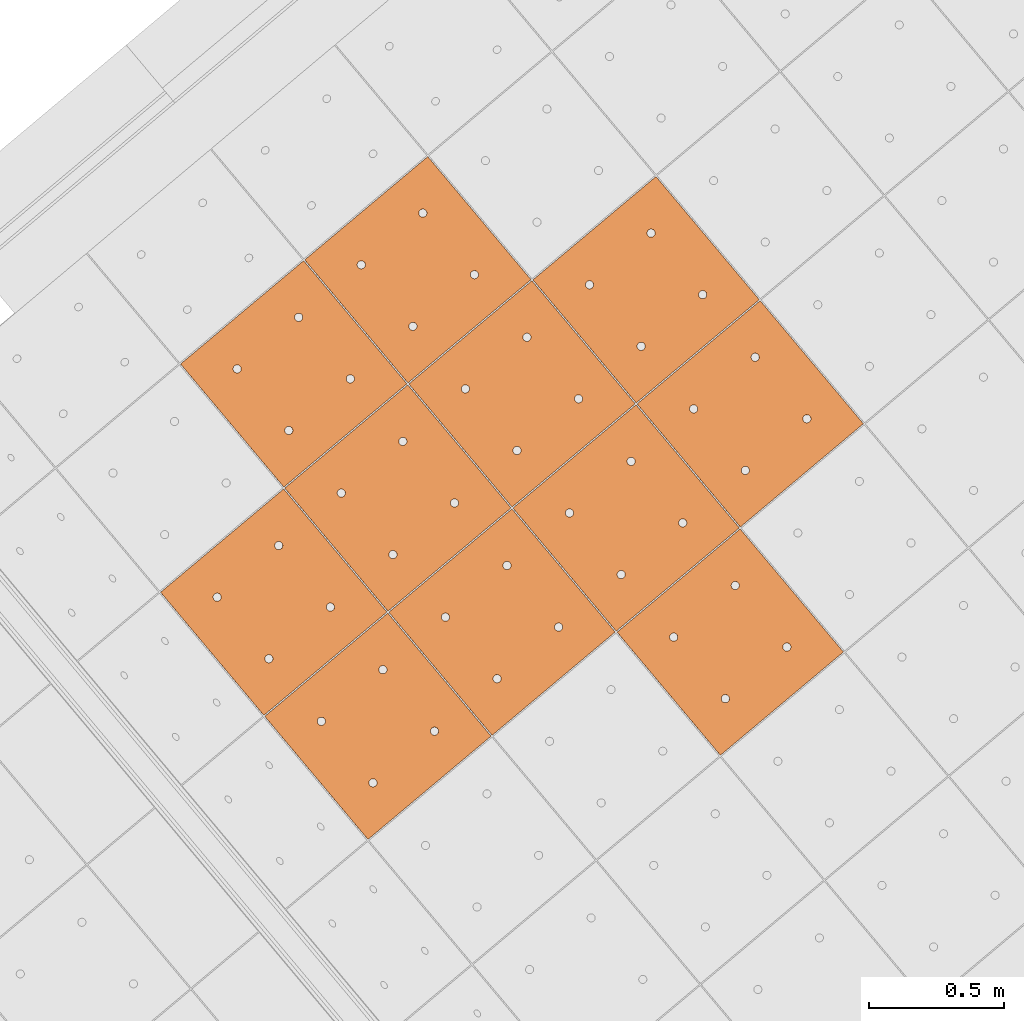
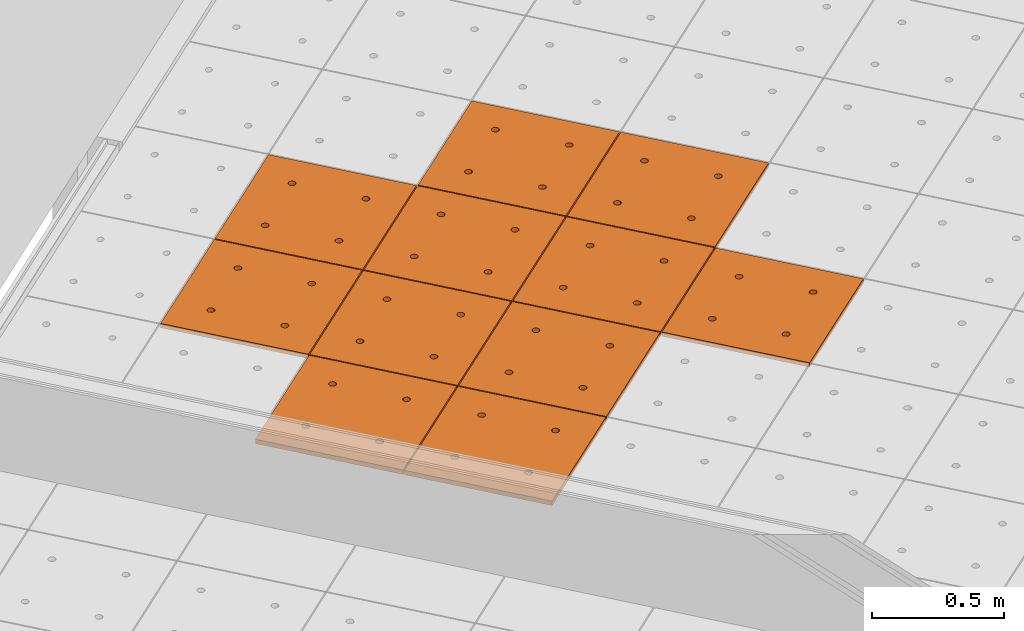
# One storey, part 162 of 338: 11 proxies, 1 element without a shape of its own.
"""IFC2X3 building model written with IfcOpenShell, lengths in millimetres."""

import ifcopenshell
import ifcopenshell.guid

model = None  # the IFC model being written
_history = None  # IfcOwnerHistory: only IFC2X3 demands one
_inside = {}  # id of a spatial element -> (the spatial element, [elements in it])
_under = {}  # id of a project, library or spatial element -> (it, [spatial elements below it])
_declared = {}  # id of a project -> (the project, [libraries it declares])
_typed = {}  # id of a type object -> (the type object, [elements of that type])
_made_of = {}  # id of a material, layer set ... -> (it, [elements and type objects made of it])


def new_model(schema):
    """Start an empty IFC model of exactly this schema.

    Asked for "IFC4X3", IfcOpenShell would pick the latest addendum, in which some entities
    have other attributes; the version numbers below select the first issue.
    IFC2X3 requires an IfcOwnerHistory on every rooted entity: one is made here for all.
    """
    global model, _history
    if schema == "IFC4X3":
        model = ifcopenshell.file(schema_version=(4, 3, 0, 0))
    else:
        model = ifcopenshell.file(schema=schema)
    _inside.clear()
    _under.clear()
    _declared.clear()
    _typed.clear()
    _made_of.clear()
    _history = None
    if model.schema == "IFC2X3":
        org = make("IfcOrganization", Name="unknown")
        user = make(
            "IfcPersonAndOrganization",
            ThePerson=make("IfcPerson", FamilyName="unknown"),
            TheOrganization=org,
        )
        app = make(
            "IfcApplication",
            ApplicationDeveloper=org,
            Version="unknown",
            ApplicationFullName="unknown",
            ApplicationIdentifier="unknown",
        )
        _history = make(
            "IfcOwnerHistory",
            OwningUser=user,
            OwningApplication=app,
            ChangeAction="ADDED",
            CreationDate=0,
        )
    return model


def make(cls, **values):
    """One entity of the class cls with the attributes given. An attribute that is None is left unset."""
    return model.create_entity(
        cls, **{name: value for name, value in values.items() if value is not None}
    )


def entity(cls, *values):
    """Any entity or typed value of the class cls, its attributes in the order of the schema. None: left unset."""
    e = model.create_entity(cls)
    for i, value in enumerate(values):
        if value is not None:
            e[i] = value
    return e


def rooted(cls, **values):
    """An entity with a GlobalId (a new one), such as an element, a storey or a relation."""
    return make(cls, GlobalId=ifcopenshell.guid.new(), OwnerHistory=_history, **values)


def si_unit(unit_type, name, prefix=None):
    """IfcSIUnit, for example si_unit("LENGTHUNIT", "METRE", prefix="MILLI")."""
    return make("IfcSIUnit", UnitType=unit_type, Prefix=prefix, Name=name)


def converted_unit(unit_type, name, factor, base, dimensions=None, offset=None):
    """IfcConversionBasedUnit, such as the inch: factor (a typed value) times the base unit."""
    return make(
        "IfcConversionBasedUnit"
        if offset is None
        else "IfcConversionBasedUnitWithOffset",
        ConversionOffset=offset,
        Dimensions=None
        if dimensions is None
        else entity("IfcDimensionalExponents", *dimensions),
        UnitType=unit_type,
        Name=name,
        ConversionFactor=make(
            "IfcMeasureWithUnit", ValueComponent=factor, UnitComponent=base
        ),
    )


def derived_unit(unit_type, elements):
    """IfcDerivedUnit: a product of units, each with its exponent."""
    return make(
        "IfcDerivedUnit",
        Elements=[
            make("IfcDerivedUnitElement", Unit=unit, Exponent=power)
            for unit, power in elements
        ],
        UnitType=unit_type,
    )


def money_unit(currency):
    """IfcMonetaryUnit."""
    return make("IfcMonetaryUnit", Currency=currency)


def assignment(units):
    """IfcUnitAssignment: the units of a project."""
    return None if units is None else make("IfcUnitAssignment", Units=units)


def point(xyz):
    """IfcCartesianPoint."""
    return None if xyz is None else make("IfcCartesianPoint", Coordinates=xyz)


def direction(xyz):
    """IfcDirection."""
    return None if xyz is None else make("IfcDirection", DirectionRatios=xyz)


def frame(location, z_axis=None, x_axis=None):
    """IfcAxis2Placement3D, a coordinate frame: its origin and axes. An axis left out is left unset."""
    return make(
        "IfcAxis2Placement3D",
        Location=point(location),
        Axis=direction(z_axis),
        RefDirection=direction(x_axis),
    )


def origin_with_axes():
    """The frame at (0, 0, 0) with the z axis (0, 0, 1) and the x axis (1, 0, 0) written out."""
    return frame((0.0, 0.0, 0.0), z_axis=(0.0, 0.0, 1.0), x_axis=(1.0, 0.0, 0.0))


def place(relative_to, where):
    """IfcLocalPlacement: puts the frame where relative to a parent placement (None: the world)."""
    return make(
        "IfcLocalPlacement", PlacementRelTo=relative_to, RelativePlacement=where
    )


def context(
    kind, dimensions, precision=None, world=None, true_north=None, identifier=None
):
    """IfcGeometricRepresentationContext, for example the 3D "Model" context."""
    return make(
        "IfcGeometricRepresentationContext",
        ContextIdentifier=identifier,
        ContextType=kind,
        CoordinateSpaceDimension=dimensions,
        Precision=precision,
        WorldCoordinateSystem=world,
        TrueNorth=true_north,
    )


def subcontext(parent, identifier, kind, view, scale=None):
    """IfcGeometricRepresentationSubContext, for example "Body" below "Model"."""
    return make(
        "IfcGeometricRepresentationSubContext",
        ContextIdentifier=identifier,
        ContextType=kind,
        ParentContext=parent,
        TargetScale=scale,
        TargetView=view,
    )


def project(units=None, contexts=None):
    """IfcProject with its units and contexts."""
    return rooted(
        "IfcProject",
        Name="project",
        RepresentationContexts=contexts,
        UnitsInContext=assignment(units),
    )


def spatial(cls, under=None, at=None, **own):
    """A site, building, storey or space (cls), placed at a placement, below another one or the project."""
    s = rooted(cls, ObjectPlacement=at, **own)
    if under is not None:
        _under.setdefault(under.id(), (under, []))[1].append(s)
    return s


def faces_of(points, faces, orient=None, outer=None):
    """IfcFace entities. A face is a list of loops; a loop is a list of indices into points, from 0.

    orient and outer hold one flag for each loop. By default every Orientation is true, the
    first loop of a face is its IfcFaceOuterBound and the others are IfcFaceBound.
    """
    made = []
    for i, loops in enumerate(faces):
        bounds = []
        for j, loop in enumerate(loops):
            is_outer = j == 0 if outer is None else outer[i][j]
            bounds.append(
                make(
                    "IfcFaceOuterBound" if is_outer else "IfcFaceBound",
                    Bound=make("IfcPolyLoop", Polygon=[points[k] for k in loop]),
                    Orientation=True if orient is None else orient[i][j],
                )
            )
        made.append(make("IfcFace", Bounds=bounds))
    return made


def faceted_brep(points, faces, orient=None, outer=None, voids=None):
    """IfcFacetedBrep: a solid bounded by flat faces; with voids (closed shells), ...WithVoids."""
    shared = [point(p) for p in points]
    hull = make("IfcClosedShell", CfsFaces=faces_of(shared, faces, orient, outer))
    if voids is None:
        return make("IfcFacetedBrep", Outer=hull)
    return make(
        "IfcFacetedBrepWithVoids",
        Outer=hull,
        Voids=[
            make(cls, CfsFaces=faces_of(shared, fs, o, b)) for cls, fs, o, b in voids
        ],
    )


def shape(context_of_items, identifier, shape_type, items):
    """IfcShapeRepresentation: the items that make up one representation, for example the "Body"."""
    return make(
        "IfcShapeRepresentation",
        ContextOfItems=context_of_items,
        RepresentationIdentifier=identifier,
        RepresentationType=shape_type,
        Items=items,
    )


def source(mapping_origin, context_of_items, identifier, shape_type, items):
    """IfcRepresentationMap: a shape defined once, which mapped items show again and again."""
    return make(
        "IfcRepresentationMap",
        MappingOrigin=mapping_origin,
        MappedRepresentation=shape(context_of_items, identifier, shape_type, items),
    )


def transform(
    local_origin,
    x_axis=None,
    y_axis=None,
    z_axis=None,
    scale=None,
    scale2=None,
    scale3=None,
    uniform=True,
):
    """IfcCartesianTransformationOperator3D, or its non-uniform kind. x_axis, y_axis, z_axis: its Axis1, 2, 3."""
    if uniform:
        return make(
            "IfcCartesianTransformationOperator3D",
            Axis1=direction(x_axis),
            Axis2=direction(y_axis),
            LocalOrigin=point(local_origin),
            Scale=scale,
            Axis3=direction(z_axis),
        )
    return make(
        "IfcCartesianTransformationOperator3DnonUniform",
        Axis1=direction(x_axis),
        Axis2=direction(y_axis),
        LocalOrigin=point(local_origin),
        Scale=scale,
        Axis3=direction(z_axis),
        Scale2=scale2,
        Scale3=scale3,
    )


def mapped(mapping_source, mapping_target):
    """IfcMappedItem: shows the shape of a source again, moved by a transform."""
    return make(
        "IfcMappedItem", MappingSource=mapping_source, MappingTarget=mapping_target
    )


def material(Name=None, Category=None):
    """IfcMaterial."""
    return make("IfcMaterial", Name=Name, Category=Category)


def made_of(thing, what):
    """Note that an element or type object is made of a material, layer set ...; save() writes the relation."""
    if what is not None:
        _made_of.setdefault(what.id(), (what, []))[1].append(thing)
    return thing


def type_object(cls, material=None, **own):
    """A type object (cls), such as IfcWallType, which elements share."""
    return made_of(rooted(cls, **own), material)


def type_shapes(of_type, sources):
    """Give a type object the sources (RepresentationMaps) that its elements show as mapped items."""
    of_type.RepresentationMaps = sources


def element(
    cls,
    number,
    at=None,
    inside=None,
    cuts=None,
    type_object=None,
    material=None,
    context=None,
    identifier="Body",
    shape_type=None,
    held_by="IfcProductDefinitionShape",
    body=None,
    shapes=None,
    **own,
):
    """One element of the class cls, such as IfcWall. Its Tag is "e" and its number.

    at: its placement. inside: the storey or other place that contains it. cuts: it is an
    opening in that element (IfcRelVoidsElement). A single representation is given by context,
    identifier, shape_type and body (its items); several are given by shapes. held_by: the class
    of the entity that holds the representations. save() writes the other relations.
    """
    e = rooted(cls, Tag="e%d" % number, ObjectPlacement=at, **own)
    if body is not None:
        shapes = [shape(context, identifier, shape_type, body)]
    if shapes is not None:
        e.Representation = make(held_by, Representations=shapes)
    if inside is not None:
        _inside.setdefault(inside.id(), (inside, []))[1].append(e)
    if cuts is not None:
        rooted(
            "IfcRelVoidsElement", RelatingBuildingElement=cuts, RelatedOpeningElement=e
        )
    if type_object is not None:
        _typed.setdefault(type_object.id(), (type_object, []))[1].append(e)
    return made_of(e, material)


def aggregate(whole, parts):
    """IfcRelAggregates: a whole, such as a stair, and the parts it consists of."""
    return rooted("IfcRelAggregates", RelatingObject=whole, RelatedObjects=parts)


def save(model, path):
    """Write the relations noted so far, then the file.

    IfcRelAggregates (storeys below a building ...), IfcRelContainedInSpatialStructure (elements
    in a storey), IfcRelDefinesByType, IfcRelAssociatesMaterial and IfcRelDeclares: one each for
    every whole, place, type object, material and project.
    """
    for whole, parts in _under.values():
        aggregate(whole, parts)
    for where, things in _inside.values():
        rooted(
            "IfcRelContainedInSpatialStructure",
            RelatedElements=things,
            RelatingStructure=where,
        )
    for kind, things in _typed.values():
        rooted("IfcRelDefinesByType", RelatedObjects=things, RelatingType=kind)
    for what, things in _made_of.values():
        rooted("IfcRelAssociatesMaterial", RelatedObjects=things, RelatingMaterial=what)
    for by, libraries in _declared.values():
        rooted("IfcRelDeclares", RelatingContext=by, RelatedDefinitions=libraries)
    model.write(path)


model = new_model("IFC2X3")

# Units and contexts
model_context = context("Model", 3, precision=0.01, world=origin_with_axes(), true_north=direction((0.0, 1.0)))
plan_context = context("Plan", 3, precision=0.01, world=origin_with_axes(), true_north=direction((0.0, 1.0)))
body_context = subcontext(model_context, "Body", "Model", "MODEL_VIEW")
ifc_project = project(units=[si_unit("LENGTHUNIT", "METRE", prefix="MILLI"), si_unit("AREAUNIT", "SQUARE_METRE"), si_unit("VOLUMEUNIT", "CUBIC_METRE"), converted_unit("PLANEANGLEUNIT", "DEGREE", entity("IfcPlaneAngleMeasure", 0.0174532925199), si_unit("PLANEANGLEUNIT", "RADIAN"), dimensions=[0, 0, 0, 0, 0, 0, 0]), money_unit("EUR"), converted_unit("TIMEUNIT", "Year", entity("IfcTimeMeasure", 31556926.0), si_unit("TIMEUNIT", "SECOND"), dimensions=[0, 0, 1, 0, 0, 0, 0]), si_unit("MASSUNIT", "GRAM", prefix="KILO"), si_unit("THERMODYNAMICTEMPERATUREUNIT", "DEGREE_CELSIUS"), si_unit("LUMINOUSINTENSITYUNIT", "LUMEN"), si_unit("ENERGYUNIT", "JOULE", prefix="MEGA"), derived_unit("THERMALCONDUCTANCEUNIT", [(si_unit("POWERUNIT", "WATT"), 1), (si_unit("LENGTHUNIT", "METRE"), -1), (si_unit("THERMODYNAMICTEMPERATUREUNIT", "KELVIN"), -1)]), derived_unit("SPECIFICHEATCAPACITYUNIT", [(si_unit("ENERGYUNIT", "JOULE"), 1), (si_unit("MASSUNIT", "GRAM", prefix="KILO"), -1), (si_unit("THERMODYNAMICTEMPERATUREUNIT", "KELVIN"), -1)]), derived_unit("MASSDENSITYUNIT", [(si_unit("MASSUNIT", "GRAM", prefix="KILO"), 1), (si_unit("VOLUMEUNIT", "CUBIC_METRE"), -1)])], contexts=[model_context, plan_context])

# Site, building, storey
site_placement = place(None, origin_with_axes())
site = spatial("IfcSite", under=ifc_project, at=site_placement, Name="Fortuinstraat Woensdrecht", CompositionType="ELEMENT")
building_placement = place(site_placement, origin_with_axes())
building = spatial("IfcBuilding", under=site, at=building_placement, Name="IKC Fortuna", CompositionType="ELEMENT")
storey_placement = place(building_placement, origin_with_axes())
storey = spatial("IfcBuildingStorey", under=building, at=storey_placement, Name="00 begane grond", CompositionType="ELEMENT", Elevation=0.0)

# Covering, proxies
covering_type = type_object("IfcCoveringType", Name="Curtain Wall Type", PredefinedType="CEILING")
covering_placement = place(storey_placement, frame((15863.124366, 4456.31398675, 4619.99995334), z_axis=(0.0, 0.0, 1.0), x_axis=(1.0, 0.0, 0.0)))
covering = element("IfcCovering", 1, at=covering_placement, inside=storey, type_object=covering_type, Name="45_Plafondafwerking_P01", PredefinedType="CEILING")
ifc_material = material(Name="Gipsplaat")
building_element_proxy_type = type_object("IfcBuildingElementProxyType", Name="Main Panel 600 x 600 x 20", PredefinedType="NOTDEFINED")
shared_shape = source(origin_with_axes(), body_context, "Body", "Brep", [
    faceted_brep([(2.50000262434, 2.50000269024, -10.0), (299.999999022, 2.50000269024, -10.0), (299.999999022, 2.50000269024, 10.0), (2.50000262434, 2.50000269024, 10.0), (2.50000262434, 300.000003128, -10.0), (2.50000262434, 597.500003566, -10.0), (299.999999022, 597.500003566, -10.0), (597.499995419, 597.500003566, -10.0), (597.499995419, 300.000003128, -10.0), (597.499995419, 2.50000269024, -10.0), (166.250000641, 450.062333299, -10.0), (165.794233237, 452.647118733, -10.0), (164.896546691, 455.113492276, -10.0), (163.584216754, 457.386514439, -10.0), (161.897117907, 459.397120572, -10.0), (159.886511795, 461.084219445, -10.0), (157.613489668, 462.396549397, -10.0), (155.147116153, 463.294235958, -10.0), (152.56233076, 463.750003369, -10.0), (149.937670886, 463.750003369, -10.0), (147.352885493, 463.294235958, -10.0), (144.886511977, 462.396549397, -10.0), (142.61348985, 461.084219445, -10.0), (140.602883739, 459.397120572, -10.0), (138.915784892, 457.386514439, -10.0), (137.603454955, 455.113492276, -10.0), (136.705768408, 452.647118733, -10.0), (136.250001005, 450.062333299, -10.0), (136.250001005, 448.750003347, -10.0), (136.250001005, 447.437673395, -10.0), (136.705768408, 444.852887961, -10.0), (137.603454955, 442.386514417, -10.0), (138.915784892, 440.113492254, -10.0), (140.602883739, 438.102886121, -10.0), (142.61348985, 436.415787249, -10.0), (144.886511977, 435.103457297, -10.0), (147.352885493, 434.205770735, -10.0), (149.937670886, 433.750003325, -10.0), (152.56233076, 433.750003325, -10.0), (155.147116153, 434.205770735, -10.0), (157.613489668, 435.103457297, -10.0), (159.886511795, 436.415787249, -10.0), (161.897117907, 438.102886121, -10.0), (163.584216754, 440.113492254, -10.0), (164.896546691, 442.386514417, -10.0), (165.794233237, 444.852887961, -10.0), (166.250000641, 447.437673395, -10.0), (463.749997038, 450.062333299, -10.0), (463.294229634, 452.647118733, -10.0), (462.396543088, 455.113492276, -10.0), (461.084213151, 457.386514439, -10.0), (459.397114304, 459.397120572, -10.0), (457.386508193, 461.084219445, -10.0), (455.113486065, 462.396549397, -10.0), (452.64711255, 463.294235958, -10.0), (450.062327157, 463.750003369, -10.0), (447.437667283, 463.750003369, -10.0), (444.85288189, 463.294235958, -10.0), (442.386508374, 462.396549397, -10.0), (440.113486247, 461.084219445, -10.0), (438.102880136, 459.397120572, -10.0), (436.415781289, 457.386514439, -10.0), (435.103451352, 455.113492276, -10.0), (434.205764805, 452.647118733, -10.0), (433.749997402, 450.062333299, -10.0), (433.749997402, 448.750003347, -10.0), (433.749997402, 447.437673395, -10.0), (434.205764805, 444.852887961, -10.0), (435.103451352, 442.386514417, -10.0), (436.415781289, 440.113492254, -10.0), (438.102880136, 438.102886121, -10.0), (440.113486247, 436.415787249, -10.0), (442.386508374, 435.103457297, -10.0), (444.85288189, 434.205770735, -10.0), (447.437667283, 433.750003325, -10.0), (450.062327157, 433.750003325, -10.0), (452.64711255, 434.205770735, -10.0), (455.113486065, 435.103457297, -10.0), (457.386508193, 436.415787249, -10.0), (459.397114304, 438.102886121, -10.0), (461.084213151, 440.113492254, -10.0), (462.396543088, 442.386514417, -10.0), (463.294229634, 444.852887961, -10.0), (463.749997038, 447.437673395, -10.0), (463.749997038, 152.562332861, -10.0), (463.294229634, 155.147118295, -10.0), (462.396543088, 157.613491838, -10.0), (461.084213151, 159.886514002, -10.0), (459.397114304, 161.897120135, -10.0), (457.386508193, 163.584219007, -10.0), (455.113486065, 164.896548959, -10.0), (452.64711255, 165.79423552, -10.0), (450.062327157, 166.250002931, -10.0), (447.437667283, 166.250002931, -10.0), (444.85288189, 165.79423552, -10.0), (442.386508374, 164.896548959, -10.0), (440.113486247, 163.584219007, -10.0), (438.102880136, 161.897120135, -10.0), (436.415781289, 159.886514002, -10.0), (435.103451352, 157.613491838, -10.0), (434.205764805, 155.147118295, -10.0), (433.749997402, 152.562332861, -10.0), (433.749997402, 151.250002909, -10.0), (433.749997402, 149.937672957, -10.0), (434.205764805, 147.352887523, -10.0), (435.103451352, 144.88651398, -10.0), (436.415781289, 142.613491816, -10.0), (438.102880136, 140.602885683, -10.0), (440.113486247, 138.915786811, -10.0), (442.386508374, 137.603456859, -10.0), (444.85288189, 136.705770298, -10.0), (447.437667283, 136.250002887, -10.0), (450.062327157, 136.250002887, -10.0), (452.64711255, 136.705770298, -10.0), (455.113486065, 137.603456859, -10.0), (457.386508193, 138.915786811, -10.0), (459.397114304, 140.602885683, -10.0), (461.084213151, 142.613491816, -10.0), (462.396543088, 144.88651398, -10.0), (463.294229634, 147.352887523, -10.0), (463.749997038, 149.937672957, -10.0), (166.250000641, 152.562332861, -10.0), (165.794233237, 155.147118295, -10.0), (164.896546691, 157.613491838, -10.0), (163.584216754, 159.886514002, -10.0), (161.897117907, 161.897120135, -10.0), (159.886511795, 163.584219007, -10.0), (157.613489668, 164.896548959, -10.0), (155.147116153, 165.79423552, -10.0), (152.56233076, 166.250002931, -10.0), (149.937670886, 166.250002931, -10.0), (147.352885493, 165.79423552, -10.0), (144.886511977, 164.896548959, -10.0), (142.61348985, 163.584219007, -10.0), (140.602883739, 161.897120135, -10.0), (138.915784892, 159.886514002, -10.0), (137.603454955, 157.613491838, -10.0), (136.705768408, 155.147118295, -10.0), (136.250001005, 152.562332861, -10.0), (136.250001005, 151.250002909, -10.0), (136.250001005, 149.937672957, -10.0), (136.705768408, 147.352887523, -10.0), (137.603454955, 144.88651398, -10.0), (138.915784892, 142.613491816, -10.0), (140.602883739, 140.602885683, -10.0), (142.61348985, 138.915786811, -10.0), (144.886511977, 137.603456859, -10.0), (147.352885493, 136.705770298, -10.0), (149.937670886, 136.250002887, -10.0), (152.56233076, 136.250002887, -10.0), (155.147116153, 136.705770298, -10.0), (157.613489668, 137.603456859, -10.0), (159.886511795, 138.915786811, -10.0), (161.897117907, 140.602885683, -10.0), (163.584216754, 142.613491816, -10.0), (164.896546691, 144.88651398, -10.0), (165.794233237, 147.352887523, -10.0), (166.250000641, 149.937672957, -10.0), (597.499995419, 2.50000269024, 10.0), (597.499995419, 300.000003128, 10.0), (597.499995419, 597.500003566, 10.0), (299.999999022, 597.500003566, 10.0), (2.50000262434, 597.500003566, 10.0), (2.50000262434, 300.000003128, 10.0), (166.250000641, 450.062333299, 10.0), (166.250000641, 447.437673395, 10.0), (165.794233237, 444.852887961, 10.0), (164.896546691, 442.386514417, 10.0), (163.584216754, 440.113492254, 10.0), (161.897117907, 438.102886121, 10.0), (159.886511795, 436.415787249, 10.0), (157.613489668, 435.103457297, 10.0), (155.147116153, 434.205770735, 10.0), (152.56233076, 433.750003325, 10.0), (149.937670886, 433.750003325, 10.0), (147.352885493, 434.205770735, 10.0), (144.886511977, 435.103457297, 10.0), (142.61348985, 436.415787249, 10.0), (140.602883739, 438.102886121, 10.0), (138.915784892, 440.113492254, 10.0), (137.603454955, 442.386514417, 10.0), (136.705768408, 444.852887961, 10.0), (136.250001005, 447.437673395, 10.0), (136.250001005, 448.750003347, 10.0), (136.250001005, 450.062333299, 10.0), (136.705768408, 452.647118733, 10.0), (137.603454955, 455.113492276, 10.0), (138.915784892, 457.386514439, 10.0), (140.602883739, 459.397120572, 10.0), (142.61348985, 461.084219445, 10.0), (144.886511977, 462.396549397, 10.0), (147.352885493, 463.294235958, 10.0), (149.937670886, 463.750003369, 10.0), (152.56233076, 463.750003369, 10.0), (155.147116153, 463.294235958, 10.0), (157.613489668, 462.396549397, 10.0), (159.886511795, 461.084219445, 10.0), (161.897117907, 459.397120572, 10.0), (163.584216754, 457.386514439, 10.0), (164.896546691, 455.113492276, 10.0), (165.794233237, 452.647118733, 10.0), (463.749997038, 450.062333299, 10.0), (463.749997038, 447.437673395, 10.0), (463.294229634, 444.852887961, 10.0), (462.396543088, 442.386514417, 10.0), (461.084213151, 440.113492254, 10.0), (459.397114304, 438.102886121, 10.0), (457.386508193, 436.415787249, 10.0), (455.113486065, 435.103457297, 10.0), (452.64711255, 434.205770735, 10.0), (450.062327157, 433.750003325, 10.0), (447.437667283, 433.750003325, 10.0), (444.85288189, 434.205770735, 10.0), (442.386508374, 435.103457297, 10.0), (440.113486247, 436.415787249, 10.0), (438.102880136, 438.102886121, 10.0), (436.415781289, 440.113492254, 10.0), (435.103451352, 442.386514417, 10.0), (434.205764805, 444.852887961, 10.0), (433.749997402, 447.437673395, 10.0), (433.749997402, 448.750003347, 10.0), (433.749997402, 450.062333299, 10.0), (434.205764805, 452.647118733, 10.0), (435.103451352, 455.113492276, 10.0), (436.415781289, 457.386514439, 10.0), (438.102880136, 459.397120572, 10.0), (440.113486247, 461.084219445, 10.0), (442.386508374, 462.396549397, 10.0), (444.85288189, 463.294235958, 10.0), (447.437667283, 463.750003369, 10.0), (450.062327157, 463.750003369, 10.0), (452.64711255, 463.294235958, 10.0), (455.113486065, 462.396549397, 10.0), (457.386508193, 461.084219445, 10.0), (459.397114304, 459.397120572, 10.0), (461.084213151, 457.386514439, 10.0), (462.396543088, 455.113492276, 10.0), (463.294229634, 452.647118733, 10.0), (463.749997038, 152.562332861, 10.0), (463.749997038, 149.937672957, 10.0), (463.294229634, 147.352887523, 10.0), (462.396543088, 144.88651398, 10.0), (461.084213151, 142.613491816, 10.0), (459.397114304, 140.602885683, 10.0), (457.386508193, 138.915786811, 10.0), (455.113486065, 137.603456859, 10.0), (452.64711255, 136.705770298, 10.0), (450.062327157, 136.250002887, 10.0), (447.437667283, 136.250002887, 10.0), (444.85288189, 136.705770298, 10.0), (442.386508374, 137.603456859, 10.0), (440.113486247, 138.915786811, 10.0), (438.102880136, 140.602885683, 10.0), (436.415781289, 142.613491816, 10.0), (435.103451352, 144.88651398, 10.0), (434.205764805, 147.352887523, 10.0), (433.749997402, 149.937672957, 10.0), (433.749997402, 151.250002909, 10.0), (433.749997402, 152.562332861, 10.0), (434.205764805, 155.147118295, 10.0), (435.103451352, 157.613491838, 10.0), (436.415781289, 159.886514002, 10.0), (438.102880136, 161.897120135, 10.0), (440.113486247, 163.584219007, 10.0), (442.386508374, 164.896548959, 10.0), (444.85288189, 165.79423552, 10.0), (447.437667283, 166.250002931, 10.0), (450.062327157, 166.250002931, 10.0), (452.64711255, 165.79423552, 10.0), (455.113486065, 164.896548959, 10.0), (457.386508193, 163.584219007, 10.0), (459.397114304, 161.897120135, 10.0), (461.084213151, 159.886514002, 10.0), (462.396543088, 157.613491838, 10.0), (463.294229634, 155.147118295, 10.0), (166.250000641, 152.562332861, 10.0), (166.250000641, 149.937672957, 10.0), (165.794233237, 147.352887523, 10.0), (164.896546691, 144.88651398, 10.0), (163.584216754, 142.613491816, 10.0), (161.897117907, 140.602885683, 10.0), (159.886511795, 138.915786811, 10.0), (157.613489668, 137.603456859, 10.0), (155.147116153, 136.705770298, 10.0), (152.56233076, 136.250002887, 10.0), (149.937670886, 136.250002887, 10.0), (147.352885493, 136.705770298, 10.0), (144.886511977, 137.603456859, 10.0), (142.61348985, 138.915786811, 10.0), (140.602883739, 140.602885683, 10.0), (138.915784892, 142.613491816, 10.0), (137.603454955, 144.88651398, 10.0), (136.705768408, 147.352887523, 10.0), (136.250001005, 149.937672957, 10.0), (136.250001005, 151.250002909, 10.0), (136.250001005, 152.562332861, 10.0), (136.705768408, 155.147118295, 10.0), (137.603454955, 157.613491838, 10.0), (138.915784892, 159.886514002, 10.0), (140.602883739, 161.897120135, 10.0), (142.61348985, 163.584219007, 10.0), (144.886511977, 164.896548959, 10.0), (147.352885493, 165.79423552, 10.0), (149.937670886, 166.250002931, 10.0), (152.56233076, 166.250002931, 10.0), (155.147116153, 165.79423552, 10.0), (157.613489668, 164.896548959, 10.0), (159.886511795, 163.584219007, 10.0), (161.897117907, 161.897120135, 10.0), (163.584216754, 159.886514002, 10.0), (164.896546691, 157.613491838, 10.0), (165.794233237, 155.147118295, 10.0)], [[[0, 1, 2, 3]], [[0, 4, 5, 6, 7, 8, 9, 1], [10, 11, 12, 13, 14, 15, 16, 17, 18, 19, 20, 21, 22, 23, 24, 25, 26, 27, 28, 29, 30, 31, 32, 33, 34, 35, 36, 37, 38, 39, 40, 41, 42, 43, 44, 45, 46], [47, 48, 49, 50, 51, 52, 53, 54, 55, 56, 57, 58, 59, 60, 61, 62, 63, 64, 65, 66, 67, 68, 69, 70, 71, 72, 73, 74, 75, 76, 77, 78, 79, 80, 81, 82, 83], [84, 85, 86, 87, 88, 89, 90, 91, 92, 93, 94, 95, 96, 97, 98, 99, 100, 101, 102, 103, 104, 105, 106, 107, 108, 109, 110, 111, 112, 113, 114, 115, 116, 117, 118, 119, 120], [121, 122, 123, 124, 125, 126, 127, 128, 129, 130, 131, 132, 133, 134, 135, 136, 137, 138, 139, 140, 141, 142, 143, 144, 145, 146, 147, 148, 149, 150, 151, 152, 153, 154, 155, 156, 157]], [[1, 9, 158, 2]], [[3, 2, 158, 159, 160, 161, 162, 163], [164, 165, 166, 167, 168, 169, 170, 171, 172, 173, 174, 175, 176, 177, 178, 179, 180, 181, 182, 183, 184, 185, 186, 187, 188, 189, 190, 191, 192, 193, 194, 195, 196, 197, 198, 199, 200], [201, 202, 203, 204, 205, 206, 207, 208, 209, 210, 211, 212, 213, 214, 215, 216, 217, 218, 219, 220, 221, 222, 223, 224, 225, 226, 227, 228, 229, 230, 231, 232, 233, 234, 235, 236, 237], [238, 239, 240, 241, 242, 243, 244, 245, 246, 247, 248, 249, 250, 251, 252, 253, 254, 255, 256, 257, 258, 259, 260, 261, 262, 263, 264, 265, 266, 267, 268, 269, 270, 271, 272, 273, 274], [275, 276, 277, 278, 279, 280, 281, 282, 283, 284, 285, 286, 287, 288, 289, 290, 291, 292, 293, 294, 295, 296, 297, 298, 299, 300, 301, 302, 303, 304, 305, 306, 307, 308, 309, 310, 311]], [[4, 0, 3, 163]], [[5, 4, 163, 162]], [[6, 5, 162, 161]], [[7, 6, 161, 160]], [[8, 7, 160, 159]], [[9, 8, 159, 158]], [[11, 10, 164, 200]], [[12, 11, 200, 199]], [[13, 12, 199, 198]], [[14, 13, 198, 197]], [[15, 14, 197, 196]], [[16, 15, 196, 195]], [[17, 16, 195, 194]], [[18, 17, 194, 193]], [[19, 18, 193, 192]], [[20, 19, 192, 191]], [[21, 20, 191, 190]], [[22, 21, 190, 189]], [[23, 22, 189, 188]], [[24, 23, 188, 187]], [[25, 24, 187, 186]], [[26, 25, 186, 185]], [[27, 26, 185, 184]], [[28, 27, 184, 183]], [[29, 28, 183, 182]], [[30, 29, 182, 181]], [[31, 30, 181, 180]], [[32, 31, 180, 179]], [[33, 32, 179, 178]], [[34, 33, 178, 177]], [[35, 34, 177, 176]], [[36, 35, 176, 175]], [[37, 36, 175, 174]], [[38, 37, 174, 173]], [[39, 38, 173, 172]], [[40, 39, 172, 171]], [[41, 40, 171, 170]], [[42, 41, 170, 169]], [[43, 42, 169, 168]], [[44, 43, 168, 167]], [[45, 44, 167, 166]], [[46, 45, 166, 165]], [[10, 46, 165, 164]], [[48, 47, 201, 237]], [[49, 48, 237, 236]], [[50, 49, 236, 235]], [[51, 50, 235, 234]], [[52, 51, 234, 233]], [[53, 52, 233, 232]], [[54, 53, 232, 231]], [[55, 54, 231, 230]], [[56, 55, 230, 229]], [[57, 56, 229, 228]], [[58, 57, 228, 227]], [[59, 58, 227, 226]], [[60, 59, 226, 225]], [[61, 60, 225, 224]], [[62, 61, 224, 223]], [[63, 62, 223, 222]], [[64, 63, 222, 221]], [[65, 64, 221, 220]], [[66, 65, 220, 219]], [[67, 66, 219, 218]], [[68, 67, 218, 217]], [[69, 68, 217, 216]], [[70, 69, 216, 215]], [[71, 70, 215, 214]], [[72, 71, 214, 213]], [[73, 72, 213, 212]], [[74, 73, 212, 211]], [[75, 74, 211, 210]], [[76, 75, 210, 209]], [[77, 76, 209, 208]], [[78, 77, 208, 207]], [[79, 78, 207, 206]], [[80, 79, 206, 205]], [[81, 80, 205, 204]], [[82, 81, 204, 203]], [[83, 82, 203, 202]], [[47, 83, 202, 201]], [[85, 84, 238, 274]], [[86, 85, 274, 273]], [[87, 86, 273, 272]], [[88, 87, 272, 271]], [[89, 88, 271, 270]], [[90, 89, 270, 269]], [[91, 90, 269, 268]], [[92, 91, 268, 267]], [[93, 92, 267, 266]], [[94, 93, 266, 265]], [[95, 94, 265, 264]], [[96, 95, 264, 263]], [[97, 96, 263, 262]], [[98, 97, 262, 261]], [[99, 98, 261, 260]], [[100, 99, 260, 259]], [[101, 100, 259, 258]], [[102, 101, 258, 257]], [[103, 102, 257, 256]], [[104, 103, 256, 255]], [[105, 104, 255, 254]], [[106, 105, 254, 253]], [[107, 106, 253, 252]], [[108, 107, 252, 251]], [[109, 108, 251, 250]], [[110, 109, 250, 249]], [[111, 110, 249, 248]], [[112, 111, 248, 247]], [[113, 112, 247, 246]], [[114, 113, 246, 245]], [[115, 114, 245, 244]], [[116, 115, 244, 243]], [[117, 116, 243, 242]], [[118, 117, 242, 241]], [[119, 118, 241, 240]], [[120, 119, 240, 239]], [[84, 120, 239, 238]], [[122, 121, 275, 311]], [[123, 122, 311, 310]], [[124, 123, 310, 309]], [[125, 124, 309, 308]], [[126, 125, 308, 307]], [[127, 126, 307, 306]], [[128, 127, 306, 305]], [[129, 128, 305, 304]], [[130, 129, 304, 303]], [[131, 130, 303, 302]], [[132, 131, 302, 301]], [[133, 132, 301, 300]], [[134, 133, 300, 299]], [[135, 134, 299, 298]], [[136, 135, 298, 297]], [[137, 136, 297, 296]], [[138, 137, 296, 295]], [[139, 138, 295, 294]], [[140, 139, 294, 293]], [[141, 140, 293, 292]], [[142, 141, 292, 291]], [[143, 142, 291, 290]], [[144, 143, 290, 289]], [[145, 144, 289, 288]], [[146, 145, 288, 287]], [[147, 146, 287, 286]], [[148, 147, 286, 285]], [[149, 148, 285, 284]], [[150, 149, 284, 283]], [[151, 150, 283, 282]], [[152, 151, 282, 281]], [[153, 152, 281, 280]], [[154, 153, 280, 279]], [[155, 154, 279, 278]], [[156, 155, 278, 277]], [[157, 156, 277, 276]], [[121, 157, 276, 275]]]),
])
type_shapes(building_element_proxy_type, [shared_shape])
proxy_1_placement = place(covering_placement, frame((-7909.9798481, 844.411654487, 29.7317792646), z_axis=(0.0, 0.0, 1.0), x_axis=(0.642787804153, -0.766044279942, 0.0)))
proxy_1 = element("IfcBuildingElementProxy", 2, at=proxy_1_placement, type_object=building_element_proxy_type, material=ifc_material, Name="__600x953 Rockfon Krios", context=body_context, shape_type="MappedRepresentation", body=[
    mapped(shared_shape, transform((-300.0, 299.995617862, -1.62150043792), x_axis=(0.0, -0.999985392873, 0.00540500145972), y_axis=(1.0, 0.0, 0.0), z_axis=(0.0, 0.00540500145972, 0.999985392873))),
])
proxy_2_placement = place(covering_placement, frame((-8369.59970224, 458.744605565, 32.9747801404), z_axis=(0.0, 0.0, 1.0), x_axis=(0.642787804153, -0.766044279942, 0.0)))
proxy_2 = element("IfcBuildingElementProxy", 3, at=proxy_2_placement, type_object=building_element_proxy_type, material=ifc_material, Name="__600x954 Rockfon Krios", context=body_context, shape_type="MappedRepresentation", body=[
    mapped(shared_shape, transform((-300.0, 299.995617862, -1.62150043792), x_axis=(0.0, -0.999985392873, 0.00540500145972), y_axis=(1.0, 0.0, 0.0), z_axis=(0.0, 0.00540500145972, 0.999985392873))),
])
proxy_3_placement = place(covering_placement, frame((-7064.68731147, 770.452135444, 26.4887783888), z_axis=(0.0, 0.0, 1.0), x_axis=(0.642787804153, -0.766044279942, 0.0)))
proxy_3 = element("IfcBuildingElementProxy", 4, at=proxy_3_placement, type_object=building_element_proxy_type, material=ifc_material, Name="__600x965 Rockfon Krios", context=body_context, shape_type="MappedRepresentation", body=[
    mapped(shared_shape, transform((-300.0, 299.995617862, -1.62150043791), x_axis=(0.0, -0.999985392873, 0.00540500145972), y_axis=(1.0, 0.0, 0.0), z_axis=(0.0, 0.00540500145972, 0.999985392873))),
])
proxy_4_placement = place(covering_placement, frame((-7524.30716561, 384.785086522, 29.7317792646), z_axis=(0.0, 0.0, 1.0), x_axis=(0.642787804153, -0.766044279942, 0.0)))
proxy_4 = element("IfcBuildingElementProxy", 5, at=proxy_4_placement, type_object=building_element_proxy_type, material=ifc_material, Name="__600x966 Rockfon Krios", context=body_context, shape_type="MappedRepresentation", body=[
    mapped(shared_shape, transform((-300.0, 299.995617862, -1.62150043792), x_axis=(0.0, -0.999985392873, 0.00540500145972), y_axis=(1.0, 0.0, 0.0), z_axis=(0.0, 0.00540500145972, 0.999985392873))),
])
proxy_5_placement = place(covering_placement, frame((-7983.92701975, -0.88196239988, 32.9747801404), z_axis=(0.0, 0.0, 1.0), x_axis=(0.642787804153, -0.766044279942, 0.0)))
proxy_5 = element("IfcBuildingElementProxy", 6, at=proxy_5_placement, type_object=building_element_proxy_type, material=ifc_material, Name="__600x967 Rockfon Krios", context=body_context, shape_type="MappedRepresentation", body=[
    mapped(shared_shape, transform((-300.0, 299.995617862, -1.62150043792), x_axis=(0.0, -0.999985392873, 0.00540500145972), y_axis=(1.0, 0.0, 0.0), z_axis=(0.0, 0.00540500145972, 0.999985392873))),
])
proxy_6_placement = place(covering_placement, frame((-8443.54687389, -386.549011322, 36.2177810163), z_axis=(0.0, 0.0, 1.0), x_axis=(0.642787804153, -0.766044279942, 0.0)))
proxy_6 = element("IfcBuildingElementProxy", 7, at=proxy_6_placement, type_object=building_element_proxy_type, material=ifc_material, Name="__600x968 Rockfon Krios", context=body_context, shape_type="MappedRepresentation", body=[
    mapped(shared_shape, transform((-300.0, 299.995617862, -1.62150043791), x_axis=(0.0, -0.999985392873, 0.00540500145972), y_axis=(1.0, 0.0, 0.0), z_axis=(0.0, 0.00540500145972, 0.999985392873))),
])
proxy_7_placement = place(covering_placement, frame((-6679.01462898, 310.825567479, 26.4887783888), z_axis=(0.0, 0.0, 1.0), x_axis=(0.642787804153, -0.766044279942, 0.0)))
proxy_7 = element("IfcBuildingElementProxy", 8, at=proxy_7_placement, type_object=building_element_proxy_type, material=ifc_material, Name="__600x978 Rockfon Krios", context=body_context, shape_type="MappedRepresentation", body=[
    mapped(shared_shape, transform((-300.0, 299.995617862, -1.62150043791), x_axis=(0.0, -0.999985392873, 0.00540500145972), y_axis=(1.0, 0.0, 0.0), z_axis=(0.0, 0.00540500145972, 0.999985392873))),
])
proxy_8_placement = place(covering_placement, frame((-7138.63448312, -74.8414814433, 29.7317792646), z_axis=(0.0, 0.0, 1.0), x_axis=(0.642787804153, -0.766044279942, 0.0)))
proxy_8 = element("IfcBuildingElementProxy", 9, at=proxy_8_placement, type_object=building_element_proxy_type, material=ifc_material, Name="__600x979 Rockfon Krios", context=body_context, shape_type="MappedRepresentation", body=[
    mapped(shared_shape, transform((-300.0, 299.995617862, -1.62150043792), x_axis=(0.0, -0.999985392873, 0.00540500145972), y_axis=(1.0, 0.0, 0.0), z_axis=(0.0, 0.00540500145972, 0.999985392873))),
])
proxy_9_placement = place(covering_placement, frame((-7598.25433726, -460.508530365, 32.9747801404), z_axis=(0.0, 0.0, 1.0), x_axis=(0.642787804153, -0.766044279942, 0.0)))
proxy_9 = element("IfcBuildingElementProxy", 10, at=proxy_9_placement, type_object=building_element_proxy_type, material=ifc_material, Name="__600x980 Rockfon Krios", context=body_context, shape_type="MappedRepresentation", body=[
    mapped(shared_shape, transform((-300.0, 299.995617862, -1.62150043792), x_axis=(0.0, -0.999985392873, 0.00540500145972), y_axis=(1.0, 0.0, 0.0), z_axis=(0.0, 0.00540500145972, 0.999985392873))),
])
proxy_10_placement = place(covering_placement, frame((-8057.8741914, -846.175579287, 36.2177810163), z_axis=(0.0, 0.0, 1.0), x_axis=(0.642787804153, -0.766044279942, 0.0)))
proxy_10 = element("IfcBuildingElementProxy", 11, at=proxy_10_placement, type_object=building_element_proxy_type, material=ifc_material, Name="__600x981 Rockfon Krios", context=body_context, shape_type="MappedRepresentation", body=[
    mapped(shared_shape, transform((-300.0, 299.995617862, -1.62150043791), x_axis=(0.0, -0.999985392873, 0.00540500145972), y_axis=(1.0, 0.0, 0.0), z_axis=(0.0, 0.00540500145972, 0.999985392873))),
])
proxy_11_placement = place(covering_placement, frame((-6752.96180063, -534.468049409, 29.7317792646), z_axis=(0.0, 0.0, 1.0), x_axis=(0.642787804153, -0.766044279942, 0.0)))
proxy_11 = element("IfcBuildingElementProxy", 12, at=proxy_11_placement, type_object=building_element_proxy_type, material=ifc_material, Name="__600x992 Rockfon Krios", context=body_context, shape_type="MappedRepresentation", body=[
    mapped(shared_shape, transform((-300.0, 299.995617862, -1.62150043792), x_axis=(0.0, -0.999985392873, 0.00540500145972), y_axis=(1.0, 0.0, 0.0), z_axis=(0.0, 0.00540500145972, 0.999985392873))),
])
aggregate(covering, [proxy_1, proxy_2, proxy_3, proxy_4, proxy_5, proxy_6, proxy_7, proxy_8, proxy_9, proxy_10, proxy_11])

save(model, "model.ifc")
